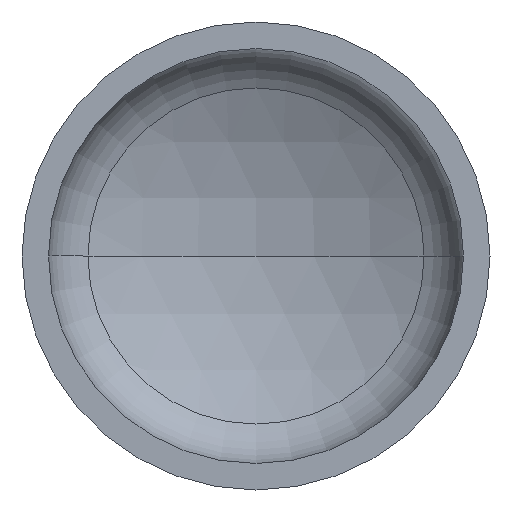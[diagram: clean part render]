
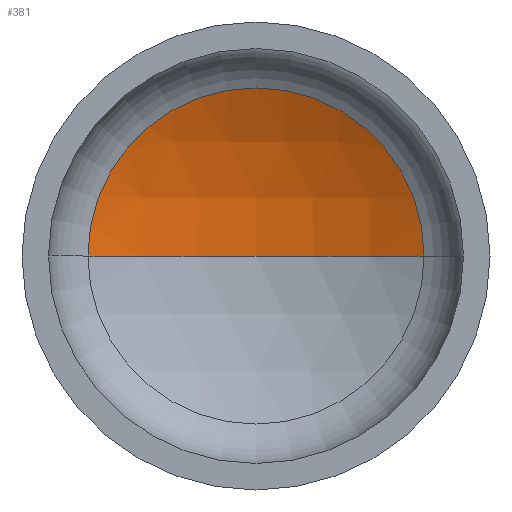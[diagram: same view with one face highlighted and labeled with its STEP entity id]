
A CAD part, front view. The second image highlights one B-rep face of the part: STEP entity #381.
In plain terms, the highlighted spherical face has radius 1440 mm.
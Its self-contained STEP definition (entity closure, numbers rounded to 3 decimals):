
#1 = AXIS2_PLACEMENT_3D ( 'NONE', #255, #48, #285 ) ;
#4 = VERTEX_POINT ( 'NONE', #172 ) ;
#10 = AXIS2_PLACEMENT_3D ( 'NONE', #380, #232, #401 ) ;
#48 = DIRECTION ( 'NONE',  ( 0., 0., 1. ) ) ;
#95 = CIRCLE ( 'NONE', #116, 1440. ) ;
#102 = CARTESIAN_POINT ( 'NONE',  ( 0., -966.007, 0. ) ) ;
#105 = ORIENTED_EDGE ( 'NONE', *, *, #331, .T. ) ;
#110 = CIRCLE ( 'NONE', #10, 646.455 ) ;
#116 = AXIS2_PLACEMENT_3D ( 'NONE', #145, #335, #178 ) ;
#145 = CARTESIAN_POINT ( 'NONE',  ( 0., -966.007, 0. ) ) ;
#165 = CARTESIAN_POINT ( 'NONE',  ( 0., 473.993, 0. ) ) ;
#166 = AXIS2_PLACEMENT_3D ( 'NONE', #102, #383, #360 ) ;
#171 = EDGE_LOOP ( 'NONE', ( #213, #194, #105 ) ) ;
#172 = CARTESIAN_POINT ( 'NONE',  ( 646.455, 320.731, 0. ) ) ;
#178 = DIRECTION ( 'NONE',  ( -1., 0., 0. ) ) ;
#194 = ORIENTED_EDGE ( 'NONE', *, *, #376, .T. ) ;
#208 = VERTEX_POINT ( 'NONE', #165 ) ;
#213 = ORIENTED_EDGE ( 'NONE', *, *, #372, .F. ) ;
#232 = DIRECTION ( 'NONE',  ( 0., -1., 0. ) ) ;
#251 = SPHERICAL_SURFACE ( 'NONE', #166, 1440. ) ;
#255 = CARTESIAN_POINT ( 'NONE',  ( 0., -966.007, 0. ) ) ;
#285 = DIRECTION ( 'NONE',  ( 1., 0., 0. ) ) ;
#295 = VERTEX_POINT ( 'NONE', #352 ) ;
#319 = FACE_OUTER_BOUND ( 'NONE', #171, .T. ) ;
#331 = EDGE_CURVE ( 'NONE', #4, #295, #110, .T. ) ;
#335 = DIRECTION ( 'NONE',  ( 0., 0., -1. ) ) ;
#352 = CARTESIAN_POINT ( 'NONE',  ( -646.455, 320.731, 0. ) ) ;
#360 = DIRECTION ( 'NONE',  ( -1., 0., 0. ) ) ;
#372 = EDGE_CURVE ( 'NONE', #208, #295, #388, .T. ) ;
#376 = EDGE_CURVE ( 'NONE', #208, #4, #95, .T. ) ;
#380 = CARTESIAN_POINT ( 'NONE',  ( 0., 320.731, 0. ) ) ;
#381 = ADVANCED_FACE ( 'NONE', ( #319 ), #251, .F. ) ;
#383 = DIRECTION ( 'NONE',  ( 0., 0., -1. ) ) ;
#388 = CIRCLE ( 'NONE', #1, 1440. ) ;
#401 = DIRECTION ( 'NONE',  ( 1., 0., 0. ) ) ;
